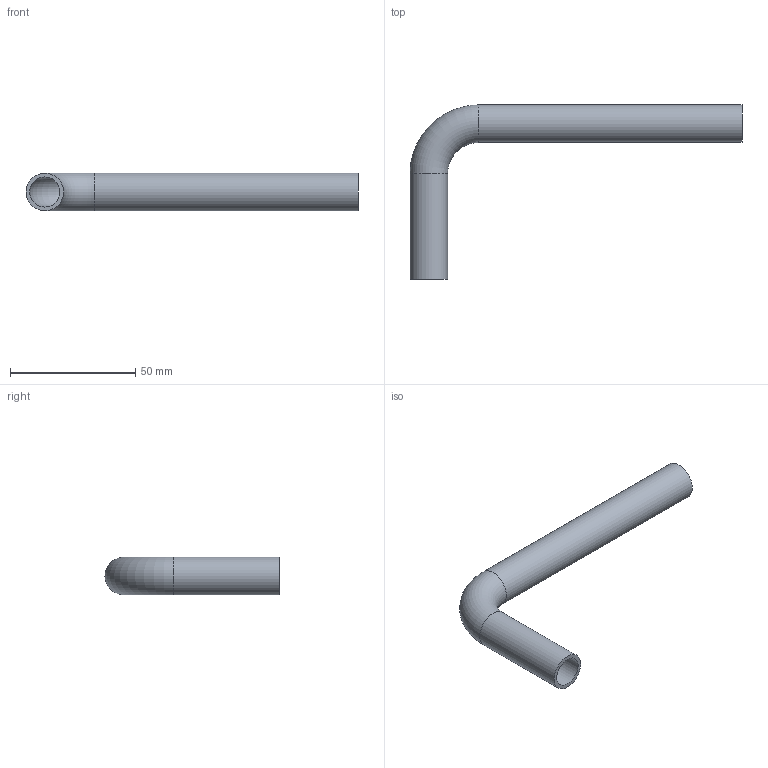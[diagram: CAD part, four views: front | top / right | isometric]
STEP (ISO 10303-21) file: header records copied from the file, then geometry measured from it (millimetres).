
FILE_DESCRIPTION((''),'2;1');
FILE_NAME('G:\Nirosan-Schmiedefeld\Technics\CAD\001 Serie 9.000\015\6900315(2).stp','2014-08-01T10:33:54',('herberg'),(''),'Autodesk Inventor 2009','Autodesk Inventor 2009','');
FILE_SCHEMA(('AUTOMOTIVE_DESIGN { 1 0 10303 214 1 1 1 1 }'));
Length unit declared in the file: millimetre
Products named in the file (1): 6900315(2)
Bounding box: 132.5 x 69.5 x 15 mm (x, y, z)
Volume: 11350.3 mm3; surface area: 15261 mm2
Topology: 1 solids, 1 shells, 8 faces, 14 edges, 8 vertices
Faces by surface type: cylinder 4, torus 2, plane 2
Full cylindrical faces by diameter (mm): 12 x2, 15 x2
Entity records: 194 total; most frequent: DIRECTION 34, CARTESIAN_POINT 25, AXIS2_PLACEMENT_3D 17, ORIENTED_EDGE 16, EDGE_LOOP 16, VERTEX_POINT 8, CIRCLE 8, EDGE_CURVE 8
